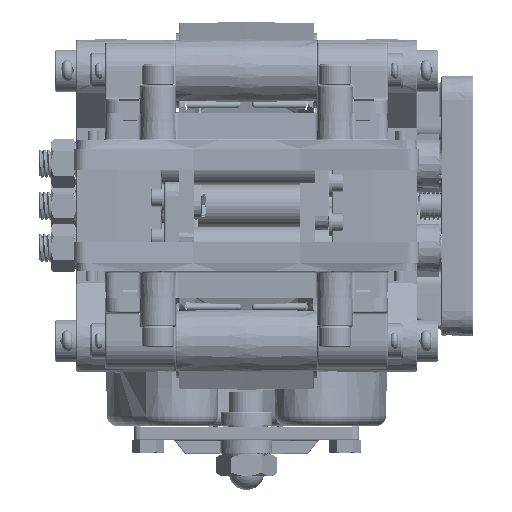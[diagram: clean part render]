
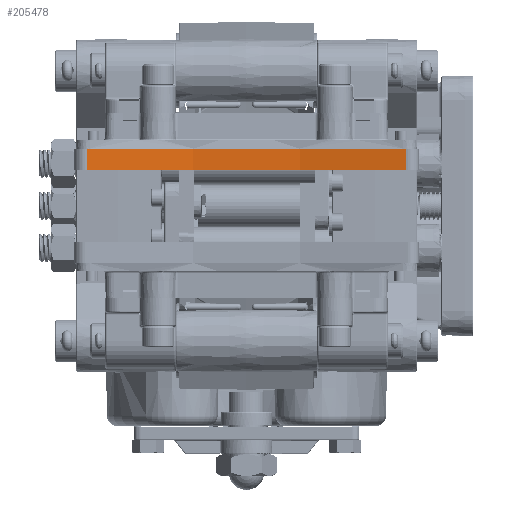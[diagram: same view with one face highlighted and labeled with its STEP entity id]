
A CAD part, left-side view. The second image highlights one B-rep face of the part: STEP entity #205478.
In plain terms, the highlighted cylindrical face has radius 335.28 mm (diameter 670.56 mm), a partial arc.
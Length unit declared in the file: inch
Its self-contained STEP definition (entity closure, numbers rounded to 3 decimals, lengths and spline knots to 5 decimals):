
#5574 = DIRECTION ( 'NONE',  ( 0., 1., 0. ) ) ;
#20746 = AXIS2_PLACEMENT_3D ( 'NONE', #133626, #37318, #149842 ) ;
#22848 = CARTESIAN_POINT ( 'NONE',  ( -2.80798, -2.83473, 0.64 ) ) ;
#27959 = FACE_OUTER_BOUND ( 'NONE', #142077, .T. ) ;
#28969 = EDGE_CURVE ( 'NONE', #151441, #202186, #184747, .T. ) ;
#32299 = DIRECTION ( 'NONE',  ( 0., 1., 0. ) ) ;
#34289 = CARTESIAN_POINT ( 'NONE',  ( -2.80798, 2.83473, 1.015 ) ) ;
#35301 = VERTEX_POINT ( 'NONE', #102055 ) ;
#37318 = DIRECTION ( 'NONE',  ( 0., 0., -1. ) ) ;
#46193 = CARTESIAN_POINT ( 'NONE',  ( -2.80798, 2.83473, 0.64 ) ) ;
#48366 = CIRCLE ( 'NONE', #20746, 13.2 ) ;
#50556 = CYLINDRICAL_SURFACE ( 'NONE', #158471, 13.2 ) ;
#63954 = DIRECTION ( 'NONE',  ( 0., 0., -1. ) ) ;
#88450 = ORIENTED_EDGE ( 'NONE', *, *, #28969, .F. ) ;
#90541 = VERTEX_POINT ( 'NONE', #46193 ) ;
#101644 = DIRECTION ( 'NONE',  ( 0., 0., -1. ) ) ;
#102055 = CARTESIAN_POINT ( 'NONE',  ( -2.80798, 2.83473, 1.015 ) ) ;
#102879 = DIRECTION ( 'NONE',  ( 0., 0., -1. ) ) ;
#112264 = VECTOR ( 'NONE', #146820, 39.37008 ) ;
#118706 = ORIENTED_EDGE ( 'NONE', *, *, #167588, .F. ) ;
#119104 = CARTESIAN_POINT ( 'NONE',  ( -2.80798, -2.83473, 1.015 ) ) ;
#133626 = CARTESIAN_POINT ( 'NONE',  ( -15.7, 0., 1.015 ) ) ;
#136916 = VECTOR ( 'NONE', #102879, 39.37008 ) ;
#142077 = EDGE_LOOP ( 'NONE', ( #148885, #88450, #118706, #166637 ) ) ;
#143514 = EDGE_CURVE ( 'NONE', #35301, #90541, #197889, .T. ) ;
#143701 = AXIS2_PLACEMENT_3D ( 'NONE', #198067, #101644, #5574 ) ;
#146820 = DIRECTION ( 'NONE',  ( 0., 0., -1. ) ) ;
#148885 = ORIENTED_EDGE ( 'NONE', *, *, #179902, .T. ) ;
#149842 = DIRECTION ( 'NONE',  ( 0., 1., 0. ) ) ;
#151441 = VERTEX_POINT ( 'NONE', #186201 ) ;
#158471 = AXIS2_PLACEMENT_3D ( 'NONE', #190527, #63954, #32299 ) ;
#166637 = ORIENTED_EDGE ( 'NONE', *, *, #143514, .T. ) ;
#167588 = EDGE_CURVE ( 'NONE', #35301, #151441, #48366, .T. ) ;
#179902 = EDGE_CURVE ( 'NONE', #90541, #202186, #187734, .T. ) ;
#184747 = LINE ( 'NONE', #119104, #136916 ) ;
#186201 = CARTESIAN_POINT ( 'NONE',  ( -2.80798, -2.83473, 1.015 ) ) ;
#187734 = CIRCLE ( 'NONE', #143701, 13.2 ) ;
#190527 = CARTESIAN_POINT ( 'NONE',  ( -15.7, 0., 1.015 ) ) ;
#197889 = LINE ( 'NONE', #34289, #112264 ) ;
#198067 = CARTESIAN_POINT ( 'NONE',  ( -15.7, 0., 0.64 ) ) ;
#202186 = VERTEX_POINT ( 'NONE', #22848 ) ;
#205478 = ADVANCED_FACE ( 'NONE', ( #27959 ), #50556, .F. ) ;
